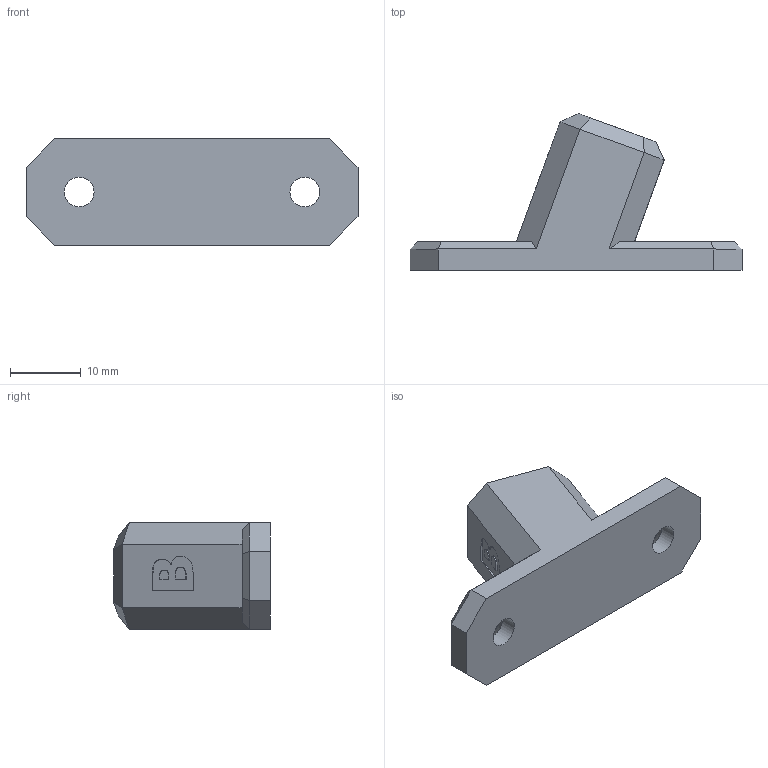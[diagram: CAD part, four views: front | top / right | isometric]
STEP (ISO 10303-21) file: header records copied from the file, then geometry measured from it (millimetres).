
FILE_DESCRIPTION(/* description */ (''),/* implementation_level */ '2;1');
FILE_NAME(/* name */ 'D:\3D печать\Мои проекты\Archy MK 2\STEP\крепление стойки под катушку заднее.stp',/* time_stamp */ '2019-03-20T22:11:40+06:00',/* author */ ('Пользователь'),/* organization */ (''),/* preprocessor_version */ 'ST-DEVELOPER v16.5',/* originating_system */ 'Autodesk Inventor 2017',/* authorisation */ '');
FILE_SCHEMA (('AUTOMOTIVE_DESIGN { 1 0 10303 214 3 1 1 }'));
Length unit declared in the file: millimetre
Products named in the file (1): крепление \X2\04410442043E0439043A
0438\X0\ под катушку \X2\0437
04300434043D04350435\X0\
Bounding box: 46.83 x 22.11 x 15 mm (x, y, z)
Volume: 5286.4 mm3; surface area: 3028.2 mm2
Topology: 1 solids, 1 shells, 69 faces, 173 edges, 110 vertices
Faces by surface type: plane 50, bspline 14, cylinder 3, cone 2
Full cylindrical faces by diameter (mm): 4.2 x2, 8.1 x1
Entity records: 2080 total; most frequent: CARTESIAN_POINT 526, ORIENTED_EDGE 332, DIRECTION 258, EDGE_CURVE 166, LINE 130, VECTOR 130, VERTEX_POINT 108, EDGE_LOOP 82
